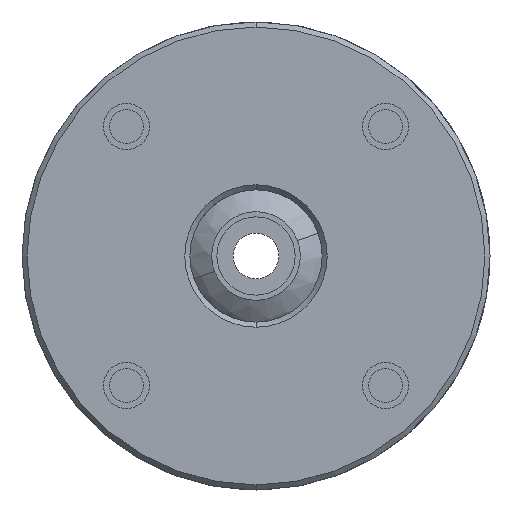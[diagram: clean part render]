
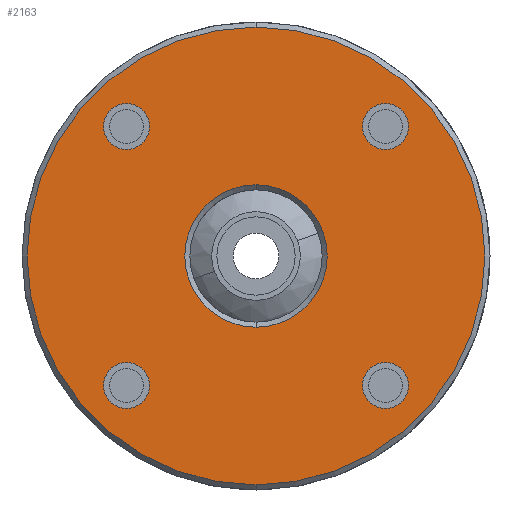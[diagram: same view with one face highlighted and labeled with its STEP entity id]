
A CAD part, front view. The second image highlights one B-rep face of the part: STEP entity #2163.
In plain terms, the highlighted planar face has unit normal (0, -1, 0).
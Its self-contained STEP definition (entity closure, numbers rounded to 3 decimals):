
#12 = EDGE_LOOP ( 'NONE', ( #3814, #3815 ) ) ;
#15 = EDGE_LOOP ( 'NONE', ( #3810, #3811 ) ) ;
#30 = EDGE_LOOP ( 'NONE', ( #3816, #3817 ) ) ;
#1590 = EDGE_CURVE ( 'NONE', #4217, #2003, #7006, .T. ) ;
#1594 = EDGE_CURVE ( 'NONE', #2004, #2005, #7003, .T. ) ;
#1598 = EDGE_CURVE ( 'NONE', #2203, #2204, #7012, .T. ) ;
#1602 = EDGE_CURVE ( 'NONE', #2207, #2208, #7018, .T. ) ;
#1608 = EDGE_CURVE ( 'NONE', #2216, #2217, #7030, .T. ) ;
#1610 = EDGE_CURVE ( 'NONE', #2215, #2218, #7033, .T. ) ;
#2003 = VERTEX_POINT ( 'NONE', #8353 ) ;
#2004 = VERTEX_POINT ( 'NONE', #8362 ) ;
#2005 = VERTEX_POINT ( 'NONE', #8352 ) ;
#2163 = ADVANCED_FACE ( 'NONE', ( #7484, #4999, #7486, #7480, #7488, #5020 ), #8886, .F. ) ;
#2203 = VERTEX_POINT ( 'NONE', #9017 ) ;
#2204 = VERTEX_POINT ( 'NONE', #9018 ) ;
#2207 = VERTEX_POINT ( 'NONE', #9021 ) ;
#2208 = VERTEX_POINT ( 'NONE', #9013 ) ;
#2215 = VERTEX_POINT ( 'NONE', #9027 ) ;
#2216 = VERTEX_POINT ( 'NONE', #9028 ) ;
#2217 = VERTEX_POINT ( 'NONE', #9029 ) ;
#2218 = VERTEX_POINT ( 'NONE', #9030 ) ;
#3379 = EDGE_CURVE ( 'NONE', #2218, #2215, #9844, .T. ) ;
#3380 = EDGE_CURVE ( 'NONE', #2217, #2216, #9845, .T. ) ;
#3381 = EDGE_CURVE ( 'NONE', #2208, #2207, #9846, .T. ) ;
#3382 = EDGE_CURVE ( 'NONE', #2204, #2203, #9847, .T. ) ;
#3383 = EDGE_CURVE ( 'NONE', #2005, #2004, #9848, .T. ) ;
#3384 = EDGE_CURVE ( 'NONE', #2003, #4217, #9849, .T. ) ;
#3808 = ORIENTED_EDGE ( 'NONE', *, *, #1594, .F. ) ;
#3809 = ORIENTED_EDGE ( 'NONE', *, *, #3383, .F. ) ;
#3810 = ORIENTED_EDGE ( 'NONE', *, *, #1590, .F. ) ;
#3811 = ORIENTED_EDGE ( 'NONE', *, *, #3384, .F. ) ;
#3812 = ORIENTED_EDGE ( 'NONE', *, *, #1598, .F. ) ;
#3813 = ORIENTED_EDGE ( 'NONE', *, *, #3382, .F. ) ;
#3814 = ORIENTED_EDGE ( 'NONE', *, *, #1602, .F. ) ;
#3815 = ORIENTED_EDGE ( 'NONE', *, *, #3381, .F. ) ;
#3816 = ORIENTED_EDGE ( 'NONE', *, *, #1608, .T. ) ;
#3817 = ORIENTED_EDGE ( 'NONE', *, *, #3380, .T. ) ;
#3818 = ORIENTED_EDGE ( 'NONE', *, *, #3379, .T. ) ;
#3819 = ORIENTED_EDGE ( 'NONE', *, *, #1610, .T. ) ;
#4217 = VERTEX_POINT ( 'NONE', #11886 ) ;
#4999 = FACE_BOUND ( 'NONE', #15, .T. ) ;
#5020 = FACE_OUTER_BOUND ( 'NONE', #6893, .T. ) ;
#6886 = EDGE_LOOP ( 'NONE', ( #3808, #3809 ) ) ;
#6887 = EDGE_LOOP ( 'NONE', ( #3812, #3813 ) ) ;
#6893 = EDGE_LOOP ( 'NONE', ( #3818, #3819 ) ) ;
#7003 = CIRCLE ( 'NONE', #7994, 2.25 ) ;
#7006 = CIRCLE ( 'NONE', #7992, 2.25 ) ;
#7012 = CIRCLE ( 'NONE', #7996, 2.25 ) ;
#7018 = CIRCLE ( 'NONE', #7998, 2.25 ) ;
#7030 = CIRCLE ( 'NONE', #8001, 7. ) ;
#7033 = CIRCLE ( 'NONE', #8002, 22.5 ) ;
#7480 = FACE_BOUND ( 'NONE', #12, .T. ) ;
#7484 = FACE_BOUND ( 'NONE', #6886, .T. ) ;
#7486 = FACE_BOUND ( 'NONE', #6887, .T. ) ;
#7488 = FACE_BOUND ( 'NONE', #30, .T. ) ;
#7810 = CARTESIAN_POINT ( 'NONE',  ( -12.728, -23., -12.728 ) ) ;
#7811 = DIRECTION ( 'NONE',  ( 0., -1., 0. ) ) ;
#7812 = DIRECTION ( 'NONE',  ( 0., 0., 1. ) ) ;
#7820 = CARTESIAN_POINT ( 'NONE',  ( 12.728, -23., 12.728 ) ) ;
#7821 = DIRECTION ( 'NONE',  ( 0., -1., 0. ) ) ;
#7822 = DIRECTION ( 'NONE',  ( 0., 0., 1. ) ) ;
#7830 = CARTESIAN_POINT ( 'NONE',  ( -12.728, -23., 12.728 ) ) ;
#7831 = DIRECTION ( 'NONE',  ( 0., -1., 0. ) ) ;
#7832 = DIRECTION ( 'NONE',  ( 0., 0., 1. ) ) ;
#7840 = CARTESIAN_POINT ( 'NONE',  ( 12.728, -23., -12.728 ) ) ;
#7841 = DIRECTION ( 'NONE',  ( 0., -1., 0. ) ) ;
#7842 = DIRECTION ( 'NONE',  ( 0., 0., 1. ) ) ;
#7853 = CARTESIAN_POINT ( 'NONE',  ( 0., -23., 0. ) ) ;
#7854 = DIRECTION ( 'NONE',  ( 0., 1., 0. ) ) ;
#7855 = DIRECTION ( 'NONE',  ( 0., 0., 1. ) ) ;
#7858 = CARTESIAN_POINT ( 'NONE',  ( 0., -23., 0. ) ) ;
#7859 = DIRECTION ( 'NONE',  ( 0., -1., 0. ) ) ;
#7860 = DIRECTION ( 'NONE',  ( 0., 0., 1. ) ) ;
#7992 = AXIS2_PLACEMENT_3D ( 'NONE', #7810, #7811, #7812 ) ;
#7994 = AXIS2_PLACEMENT_3D ( 'NONE', #7820, #7821, #7822 ) ;
#7996 = AXIS2_PLACEMENT_3D ( 'NONE', #7830, #7831, #7832 ) ;
#7998 = AXIS2_PLACEMENT_3D ( 'NONE', #7840, #7841, #7842 ) ;
#8001 = AXIS2_PLACEMENT_3D ( 'NONE', #7853, #7854, #7855 ) ;
#8002 = AXIS2_PLACEMENT_3D ( 'NONE', #7858, #7859, #7860 ) ;
#8352 = CARTESIAN_POINT ( 'NONE',  ( 12.728, -23., 10.478 ) ) ;
#8353 = CARTESIAN_POINT ( 'NONE',  ( -12.728, -23., -14.978 ) ) ;
#8362 = CARTESIAN_POINT ( 'NONE',  ( 12.728, -23., 14.978 ) ) ;
#8884 = DIRECTION ( 'NONE',  ( 0., 1., 0. ) ) ;
#8886 = PLANE ( 'NONE',  #9270 ) ;
#8888 = CARTESIAN_POINT ( 'NONE',  ( 6.5, -23., 0. ) ) ;
#8890 = DIRECTION ( 'NONE',  ( 0., 0., 1. ) ) ;
#9013 = CARTESIAN_POINT ( 'NONE',  ( 12.728, -23., -14.978 ) ) ;
#9017 = CARTESIAN_POINT ( 'NONE',  ( -12.728, -23., 14.978 ) ) ;
#9018 = CARTESIAN_POINT ( 'NONE',  ( -12.728, -23., 10.478 ) ) ;
#9021 = CARTESIAN_POINT ( 'NONE',  ( 12.728, -23., -10.478 ) ) ;
#9027 = CARTESIAN_POINT ( 'NONE',  ( 0., -23., -22.5 ) ) ;
#9028 = CARTESIAN_POINT ( 'NONE',  ( 0., -23., -7. ) ) ;
#9029 = CARTESIAN_POINT ( 'NONE',  ( 0., -23., 7. ) ) ;
#9030 = CARTESIAN_POINT ( 'NONE',  ( 0., -23., 22.5 ) ) ;
#9270 = AXIS2_PLACEMENT_3D ( 'NONE', #8888, #8884, #8890 ) ;
#9441 = AXIS2_PLACEMENT_3D ( 'NONE', #11431, #11432, #11433 ) ;
#9442 = AXIS2_PLACEMENT_3D ( 'NONE', #11434, #11435, #11436 ) ;
#9443 = AXIS2_PLACEMENT_3D ( 'NONE', #11437, #11438, #11439 ) ;
#9444 = AXIS2_PLACEMENT_3D ( 'NONE', #11440, #11441, #11442 ) ;
#9445 = AXIS2_PLACEMENT_3D ( 'NONE', #11443, #11444, #11445 ) ;
#9446 = AXIS2_PLACEMENT_3D ( 'NONE', #11447, #11448, #11449 ) ;
#9844 = CIRCLE ( 'NONE', #9441, 22.5 ) ;
#9845 = CIRCLE ( 'NONE', #9442, 7. ) ;
#9846 = CIRCLE ( 'NONE', #9443, 2.25 ) ;
#9847 = CIRCLE ( 'NONE', #9444, 2.25 ) ;
#9848 = CIRCLE ( 'NONE', #9445, 2.25 ) ;
#9849 = CIRCLE ( 'NONE', #9446, 2.25 ) ;
#11431 = CARTESIAN_POINT ( 'NONE',  ( 0., -23., 0. ) ) ;
#11432 = DIRECTION ( 'NONE',  ( 0., -1., 0. ) ) ;
#11433 = DIRECTION ( 'NONE',  ( 0., 0., 1. ) ) ;
#11434 = CARTESIAN_POINT ( 'NONE',  ( 0., -23., 0. ) ) ;
#11435 = DIRECTION ( 'NONE',  ( 0., 1., 0. ) ) ;
#11436 = DIRECTION ( 'NONE',  ( 0., 0., 1. ) ) ;
#11437 = CARTESIAN_POINT ( 'NONE',  ( 12.728, -23., -12.728 ) ) ;
#11438 = DIRECTION ( 'NONE',  ( 0., -1., 0. ) ) ;
#11439 = DIRECTION ( 'NONE',  ( 0., 0., 1. ) ) ;
#11440 = CARTESIAN_POINT ( 'NONE',  ( -12.728, -23., 12.728 ) ) ;
#11441 = DIRECTION ( 'NONE',  ( 0., -1., 0. ) ) ;
#11442 = DIRECTION ( 'NONE',  ( 0., 0., 1. ) ) ;
#11443 = CARTESIAN_POINT ( 'NONE',  ( 12.728, -23., 12.728 ) ) ;
#11444 = DIRECTION ( 'NONE',  ( 0., -1., 0. ) ) ;
#11445 = DIRECTION ( 'NONE',  ( 0., 0., 1. ) ) ;
#11447 = CARTESIAN_POINT ( 'NONE',  ( -12.728, -23., -12.728 ) ) ;
#11448 = DIRECTION ( 'NONE',  ( 0., -1., 0. ) ) ;
#11449 = DIRECTION ( 'NONE',  ( 0., 0., 1. ) ) ;
#11886 = CARTESIAN_POINT ( 'NONE',  ( -12.728, -23., -10.478 ) ) ;
